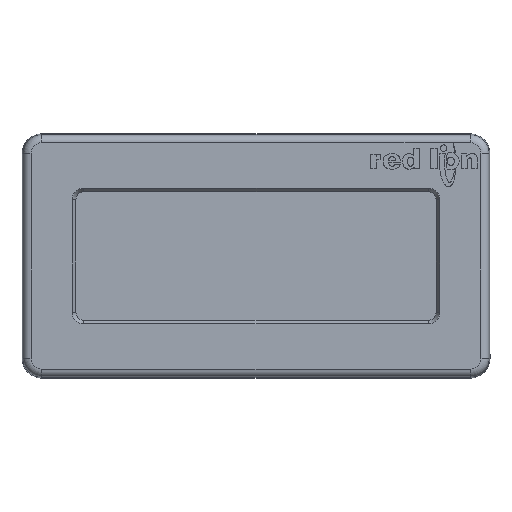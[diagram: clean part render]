
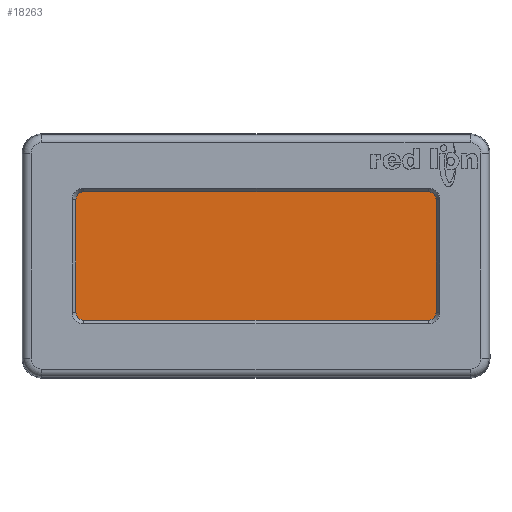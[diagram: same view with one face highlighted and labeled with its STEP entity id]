
A CAD part, top view. The second image highlights one B-rep face of the part: STEP entity #18263.
In plain terms, the highlighted planar face has unit normal (0, 0, 1).
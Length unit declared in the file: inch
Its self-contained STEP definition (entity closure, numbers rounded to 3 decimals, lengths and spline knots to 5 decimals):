
#234 = AXIS2_PLACEMENT_3D ( 'NONE', #3380, #20896, #46789 ) ;
#1082 = CARTESIAN_POINT ( 'NONE',  ( 1.215, -0.4025, 0.02 ) ) ;
#1399 = ORIENTED_EDGE ( 'NONE', *, *, #34895, .T. ) ;
#2291 = LINE ( 'NONE', #11208, #41656 ) ;
#2471 = EDGE_CURVE ( 'NONE', #40255, #31208, #51621, .T. ) ;
#2552 = DIRECTION ( 'NONE',  ( 1., 0., 0. ) ) ;
#3380 = CARTESIAN_POINT ( 'NONE',  ( 1.11, 0.4025, 0.02 ) ) ;
#4507 = FACE_OUTER_BOUND ( 'NONE', #44437, .T. ) ;
#5396 = CARTESIAN_POINT ( 'NONE',  ( -1.215, -0.4025, 0.02 ) ) ;
#5901 = EDGE_CURVE ( 'NONE', #26785, #10631, #45431, .T. ) ;
#6924 = DIRECTION ( 'NONE',  ( 1., 0., 0. ) ) ;
#7400 = DIRECTION ( 'NONE',  ( -1., 0., 0. ) ) ;
#8644 = LINE ( 'NONE', #30459, #13906 ) ;
#8808 = PLANE ( 'NONE',  #53499 ) ;
#8935 = VECTOR ( 'NONE', #7400, 39.37008 ) ;
#9678 = DIRECTION ( 'NONE',  ( 0., 0., 1. ) ) ;
#9945 = VECTOR ( 'NONE', #15804, 39.37008 ) ;
#10631 = VERTEX_POINT ( 'NONE', #5396 ) ;
#10740 = CARTESIAN_POINT ( 'NONE',  ( -1.11, -0.4025, 0.02 ) ) ;
#11015 = DIRECTION ( 'NONE',  ( 0., 0., 1. ) ) ;
#11208 = CARTESIAN_POINT ( 'NONE',  ( 1.11, -0.5075, 0.02 ) ) ;
#11703 = ORIENTED_EDGE ( 'NONE', *, *, #18195, .T. ) ;
#11763 = CARTESIAN_POINT ( 'NONE',  ( 1.11, -0.5075, 0.02 ) ) ;
#11895 = EDGE_CURVE ( 'NONE', #48869, #22470, #46236, .T. ) ;
#12295 = CARTESIAN_POINT ( 'NONE',  ( 1.11, -0.4025, 0.02 ) ) ;
#13906 = VECTOR ( 'NONE', #22685, 39.37008 ) ;
#14024 = AXIS2_PLACEMENT_3D ( 'NONE', #12295, #39001, #34684 ) ;
#14046 = CIRCLE ( 'NONE', #234, 0.105 ) ;
#15804 = DIRECTION ( 'NONE',  ( 0., -1., 0. ) ) ;
#16233 = CIRCLE ( 'NONE', #17135, 0.105 ) ;
#17135 = AXIS2_PLACEMENT_3D ( 'NONE', #10740, #11015, #28515 ) ;
#17539 = EDGE_CURVE ( 'NONE', #22470, #26785, #42430, .T. ) ;
#18195 = EDGE_CURVE ( 'NONE', #25186, #48869, #14046, .T. ) ;
#18263 = ADVANCED_FACE ( 'NONE', ( #4507 ), #8808, .T. ) ;
#18791 = CARTESIAN_POINT ( 'NONE',  ( 1.11, 0.5075, 0.02 ) ) ;
#19288 = DIRECTION ( 'NONE',  ( 0., 0., 1. ) ) ;
#19722 = ORIENTED_EDGE ( 'NONE', *, *, #11895, .T. ) ;
#20366 = ORIENTED_EDGE ( 'NONE', *, *, #17539, .T. ) ;
#20896 = DIRECTION ( 'NONE',  ( 0., 0., 1. ) ) ;
#22470 = VERTEX_POINT ( 'NONE', #36215 ) ;
#22523 = ORIENTED_EDGE ( 'NONE', *, *, #5901, .T. ) ;
#22685 = DIRECTION ( 'NONE',  ( 0., 1., 0. ) ) ;
#23956 = CARTESIAN_POINT ( 'NONE',  ( -1.11, -0.5075, 0.02 ) ) ;
#25186 = VERTEX_POINT ( 'NONE', #34230 ) ;
#26785 = VERTEX_POINT ( 'NONE', #39474 ) ;
#27470 = CARTESIAN_POINT ( 'NONE',  ( -1.11, -0.4025, 0.02 ) ) ;
#28515 = DIRECTION ( 'NONE',  ( 1., 0., 0. ) ) ;
#29213 = CARTESIAN_POINT ( 'NONE',  ( -1.11, 0.5075, 0.02 ) ) ;
#29563 = CARTESIAN_POINT ( 'NONE',  ( -1.215, -0.4025, 0.02 ) ) ;
#30459 = CARTESIAN_POINT ( 'NONE',  ( 1.215, 0.4025, 0.02 ) ) ;
#31208 = VERTEX_POINT ( 'NONE', #1082 ) ;
#31400 = AXIS2_PLACEMENT_3D ( 'NONE', #36828, #19288, #6924 ) ;
#31615 = VERTEX_POINT ( 'NONE', #23956 ) ;
#31965 = EDGE_CURVE ( 'NONE', #31615, #40255, #2291, .T. ) ;
#33173 = ORIENTED_EDGE ( 'NONE', *, *, #2471, .T. ) ;
#34230 = CARTESIAN_POINT ( 'NONE',  ( 1.215, 0.4025, 0.02 ) ) ;
#34684 = DIRECTION ( 'NONE',  ( 1., 0., 0. ) ) ;
#34895 = EDGE_CURVE ( 'NONE', #10631, #31615, #16233, .T. ) ;
#36215 = CARTESIAN_POINT ( 'NONE',  ( -1.11, 0.5075, 0.02 ) ) ;
#36828 = CARTESIAN_POINT ( 'NONE',  ( -1.11, 0.4025, 0.02 ) ) ;
#39001 = DIRECTION ( 'NONE',  ( 0., 0., 1. ) ) ;
#39474 = CARTESIAN_POINT ( 'NONE',  ( -1.215, 0.4025, 0.02 ) ) ;
#40134 = EDGE_CURVE ( 'NONE', #31208, #25186, #8644, .T. ) ;
#40154 = DIRECTION ( 'NONE',  ( 1., 0., 0. ) ) ;
#40255 = VERTEX_POINT ( 'NONE', #11763 ) ;
#41656 = VECTOR ( 'NONE', #2552, 39.37008 ) ;
#42430 = CIRCLE ( 'NONE', #31400, 0.105 ) ;
#44437 = EDGE_LOOP ( 'NONE', ( #48128, #11703, #19722, #20366, #22523, #1399, #55459, #33173 ) ) ;
#45431 = LINE ( 'NONE', #29563, #9945 ) ;
#46236 = LINE ( 'NONE', #29213, #8935 ) ;
#46789 = DIRECTION ( 'NONE',  ( 1., 0., 0. ) ) ;
#48128 = ORIENTED_EDGE ( 'NONE', *, *, #40134, .T. ) ;
#48869 = VERTEX_POINT ( 'NONE', #18791 ) ;
#51621 = CIRCLE ( 'NONE', #14024, 0.105 ) ;
#53499 = AXIS2_PLACEMENT_3D ( 'NONE', #27470, #9678, #40154 ) ;
#55459 = ORIENTED_EDGE ( 'NONE', *, *, #31965, .T. ) ;
